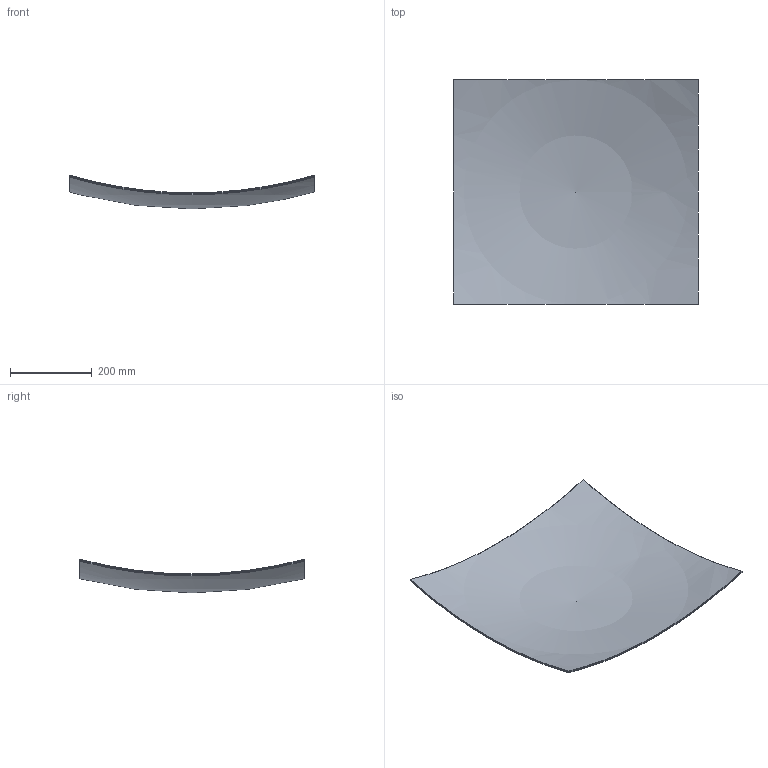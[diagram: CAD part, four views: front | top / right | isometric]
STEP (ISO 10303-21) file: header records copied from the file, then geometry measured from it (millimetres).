
FILE_DESCRIPTION( ( 'Unknown' ), '1' );
FILE_NAME( 'C:/Users/Lee/Documents/HGC Work/Solid Edge/heavy_gas_cherenkov_v5/step/mirror.stp', 'Unknown', ( 'Unknown' ), ( 'Unknown' ), 'PSStep 13.0', 'Unknown', ' ' );
FILE_SCHEMA( ( 'AUTOMOTIVE_DESIGN { 1 0 10303 214 1 1 1 1 }' ) );
Length unit declared in the file: millimetre
Products named in the file (3): Assem1; CF_mirror_backing; mirror_alone
Bounding box: 600 x 550 x 82.55 mm (x, y, z)
Volume: 3040925.4 mm3; surface area: 2724713.1 mm2
Topology: 4 solids, 4 shells, 24 faces, 72 edges, 48 vertices
Faces by surface type: plane 16, sphere 8
Entity records: 462 total; most frequent: DIRECTION 70, CARTESIAN_POINT 55, ORIENTED_EDGE 48, AXIS2_PLACEMENT_3D 31, EDGE_CURVE 24, VERTEX_POINT 16, CIRCLE 16, STYLED_ITEM 12
